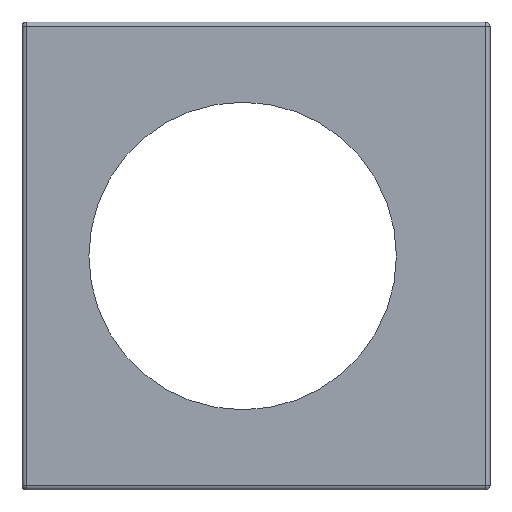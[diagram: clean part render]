
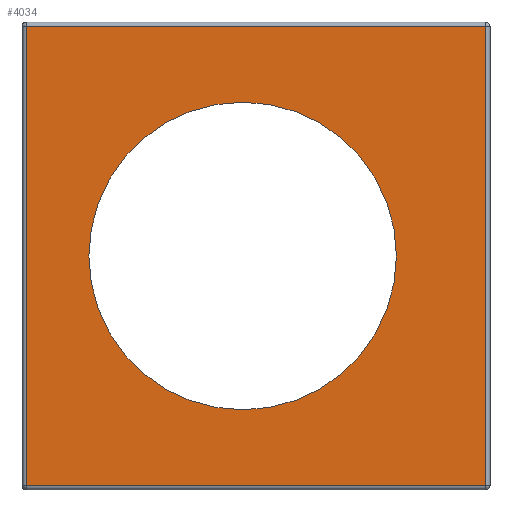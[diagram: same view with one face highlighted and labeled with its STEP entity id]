
A CAD part, left-side view. The second image highlights one B-rep face of the part: STEP entity #4034.
In plain terms, the highlighted planar face has unit normal (-1, 0, 0).
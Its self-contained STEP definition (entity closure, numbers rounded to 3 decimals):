
#87 = CARTESIAN_POINT ( 'NONE',  ( 2199.177, -660.494, -21. ) ) ;
#275 = CARTESIAN_POINT ( 'NONE',  ( 2199.177, -670.194, -10.5 ) ) ;
#289 = CARTESIAN_POINT ( 'NONE',  ( 2199.177, -660.494, -20.8 ) ) ;
#322 = CARTESIAN_POINT ( 'NONE',  ( 2199.177, -660.494, -0.2 ) ) ;
#744 = LINE ( 'NONE', #87, #2936 ) ;
#752 = EDGE_CURVE ( 'NONE', #2563, #4419, #1657, .T. ) ;
#857 = ORIENTED_EDGE ( 'NONE', *, *, #4481, .F. ) ;
#988 = CARTESIAN_POINT ( 'NONE',  ( 2199.177, -681.294, -21. ) ) ;
#1155 = CARTESIAN_POINT ( 'NONE',  ( 2199.177, -681.094, -21. ) ) ;
#1227 = CIRCLE ( 'NONE', #2639, 6.9 ) ;
#1287 = FACE_OUTER_BOUND ( 'NONE', #4777, .T. ) ;
#1567 = LINE ( 'NONE', #3758, #3897 ) ;
#1657 = LINE ( 'NONE', #3638, #2357 ) ;
#1675 = AXIS2_PLACEMENT_3D ( 'NONE', #988, #1781, #4458 ) ;
#1742 = VECTOR ( 'NONE', #2973, 1000. ) ;
#1747 = CARTESIAN_POINT ( 'NONE',  ( 2199.177, -681.094, -0.2 ) ) ;
#1781 = DIRECTION ( 'NONE',  ( 1., 0., 0. ) ) ;
#1809 = CIRCLE ( 'NONE', #4471, 6.9 ) ;
#1846 = VERTEX_POINT ( 'NONE', #2521 ) ;
#2134 = EDGE_LOOP ( 'NONE', ( #4021, #4480 ) ) ;
#2186 = CARTESIAN_POINT ( 'NONE',  ( 2199.177, -670.194, -3.6 ) ) ;
#2212 = DIRECTION ( 'NONE',  ( 1., 0., 0. ) ) ;
#2243 = DIRECTION ( 'NONE',  ( 0., 1., 0. ) ) ;
#2321 = CARTESIAN_POINT ( 'NONE',  ( 2199.177, -681.094, -20.8 ) ) ;
#2357 = VECTOR ( 'NONE', #3621, 1000. ) ;
#2521 = CARTESIAN_POINT ( 'NONE',  ( 2199.177, -670.194, -17.4 ) ) ;
#2563 = VERTEX_POINT ( 'NONE', #322 ) ;
#2634 = DIRECTION ( 'NONE',  ( 0., 0., -1. ) ) ;
#2639 = AXIS2_PLACEMENT_3D ( 'NONE', #4504, #2212, #2634 ) ;
#2746 = DIRECTION ( 'NONE',  ( 0., 0., 1. ) ) ;
#2803 = ORIENTED_EDGE ( 'NONE', *, *, #4728, .F. ) ;
#2936 = VECTOR ( 'NONE', #2746, 1000. ) ;
#2973 = DIRECTION ( 'NONE',  ( 0., 0., -1. ) ) ;
#3135 = VERTEX_POINT ( 'NONE', #2186 ) ;
#3262 = PLANE ( 'NONE',  #1675 ) ;
#3285 = LINE ( 'NONE', #1155, #1742 ) ;
#3333 = DIRECTION ( 'NONE',  ( 0., 0., -1. ) ) ;
#3446 = EDGE_CURVE ( 'NONE', #1846, #3135, #1809, .T. ) ;
#3621 = DIRECTION ( 'NONE',  ( 0., -1., 0. ) ) ;
#3638 = CARTESIAN_POINT ( 'NONE',  ( 2199.177, -681.294, -0.2 ) ) ;
#3735 = EDGE_CURVE ( 'NONE', #4579, #2563, #744, .T. ) ;
#3744 = DIRECTION ( 'NONE',  ( 1., 0., 0. ) ) ;
#3758 = CARTESIAN_POINT ( 'NONE',  ( 2199.177, -681.294, -20.8 ) ) ;
#3897 = VECTOR ( 'NONE', #2243, 1000. ) ;
#4021 = ORIENTED_EDGE ( 'NONE', *, *, #3446, .T. ) ;
#4034 = ADVANCED_FACE ( 'NONE', ( #4441, #1287 ), #3262, .F. ) ;
#4142 = VERTEX_POINT ( 'NONE', #2321 ) ;
#4419 = VERTEX_POINT ( 'NONE', #1747 ) ;
#4438 = ORIENTED_EDGE ( 'NONE', *, *, #752, .F. ) ;
#4441 = FACE_BOUND ( 'NONE', #2134, .T. ) ;
#4458 = DIRECTION ( 'NONE',  ( 0., 0., -1. ) ) ;
#4471 = AXIS2_PLACEMENT_3D ( 'NONE', #275, #3744, #3333 ) ;
#4480 = ORIENTED_EDGE ( 'NONE', *, *, #4580, .T. ) ;
#4481 = EDGE_CURVE ( 'NONE', #4142, #4579, #1567, .T. ) ;
#4504 = CARTESIAN_POINT ( 'NONE',  ( 2199.177, -670.194, -10.5 ) ) ;
#4579 = VERTEX_POINT ( 'NONE', #289 ) ;
#4580 = EDGE_CURVE ( 'NONE', #3135, #1846, #1227, .T. ) ;
#4728 = EDGE_CURVE ( 'NONE', #4419, #4142, #3285, .T. ) ;
#4777 = EDGE_LOOP ( 'NONE', ( #4438, #4838, #857, #2803 ) ) ;
#4838 = ORIENTED_EDGE ( 'NONE', *, *, #3735, .F. ) ;
